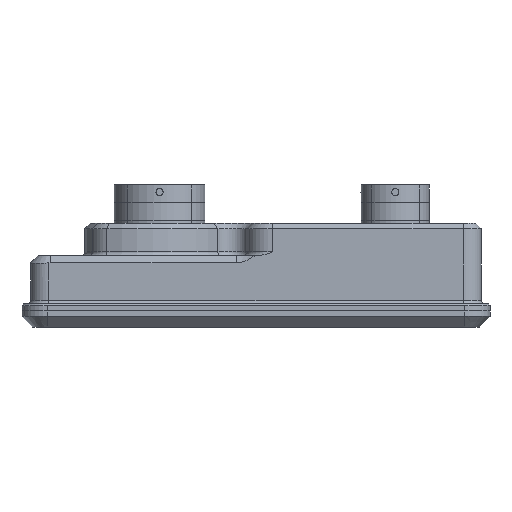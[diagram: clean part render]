
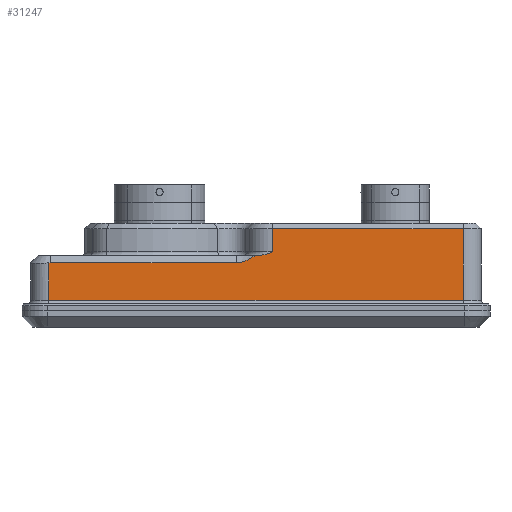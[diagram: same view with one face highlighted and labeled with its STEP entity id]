
A CAD part, front view. The second image highlights one B-rep face of the part: STEP entity #31247.
In plain terms, the highlighted planar face has unit normal (0, -1, 0).
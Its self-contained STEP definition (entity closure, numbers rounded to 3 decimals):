
#31153=CARTESIAN_POINT('Axis2P3D Location',(133.5,9.,0.)) ;
#31158=CARTESIAN_POINT('Line Origine',(72.,9.,1.)) ;
#31162=CARTESIAN_POINT('Vertex',(130.,9.,1.)) ;
#31164=CARTESIAN_POINT('Vertex',(14.,9.,1.)) ;
#31167=CARTESIAN_POINT('Line Origine',(130.,9.,11.25)) ;
#31171=CARTESIAN_POINT('Vertex',(130.,9.,21.)) ;
#31174=CARTESIAN_POINT('Line Origine',(72.,9.,21.)) ;
#31178=CARTESIAN_POINT('Vertex',(76.6,9.,21.)) ;
#31181=CARTESIAN_POINT('Line Origine',(76.6,9.,11.25)) ;
#31185=CARTESIAN_POINT('Vertex',(76.6,9.,14.5)) ;
#31189=CARTESIAN_POINT('Control Point',(72.701,9.,13.5)) ;
#31190=CARTESIAN_POINT('Control Point',(73.543,9.,13.5)) ;
#31191=CARTESIAN_POINT('Control Point',(74.361,9.,13.702)) ;
#31192=CARTESIAN_POINT('Control Point',(75.116,9.,13.942)) ;
#31193=CARTESIAN_POINT('Control Point',(75.859,9.,14.222)) ;
#31194=CARTESIAN_POINT('Control Point',(76.6,9.,14.5)) ;
#31195=CARTESIAN_POINT('Vertex',(72.701,9.,13.5)) ;
#31198=CARTESIAN_POINT('Line Origine',(72.,9.,13.5)) ;
#31202=CARTESIAN_POINT('Vertex',(71.792,9.,13.5)) ;
#31206=CARTESIAN_POINT('Control Point',(66.5,9.,11.5)) ;
#31207=CARTESIAN_POINT('Control Point',(67.585,9.,11.5)) ;
#31208=CARTESIAN_POINT('Control Point',(68.67,9.,11.745)) ;
#31209=CARTESIAN_POINT('Control Point',(69.746,9.,12.237)) ;
#31210=CARTESIAN_POINT('Control Point',(70.785,9.,12.834)) ;
#31211=CARTESIAN_POINT('Control Point',(71.791,9.,13.5)) ;
#31212=CARTESIAN_POINT('Vertex',(66.5,9.,11.5)) ;
#31215=CARTESIAN_POINT('Line Origine',(72.,9.,11.5)) ;
#31219=CARTESIAN_POINT('Vertex',(14.5,9.,11.5)) ;
#31223=CARTESIAN_POINT('Control Point',(14.5,9.,11.5)) ;
#31224=CARTESIAN_POINT('Control Point',(14.333,9.,11.5)) ;
#31225=CARTESIAN_POINT('Control Point',(14.166,9.,11.492)) ;
#31226=CARTESIAN_POINT('Control Point',(14.,9.,11.477)) ;
#31227=CARTESIAN_POINT('Vertex',(14.,9.,11.477)) ;
#31230=CARTESIAN_POINT('Line Origine',(14.,9.,11.25)) ;
#31154=DIRECTION('Axis2P3D Direction',(0.,1.,-0.)) ;
#31155=DIRECTION('Axis2P3D XDirection',(-1.,0.,0.)) ;
#31159=DIRECTION('Vector Direction',(-1.,0.,0.)) ;
#31168=DIRECTION('Vector Direction',(0.,0.,1.)) ;
#31175=DIRECTION('Vector Direction',(-1.,0.,0.)) ;
#31182=DIRECTION('Vector Direction',(0.,0.,1.)) ;
#31199=DIRECTION('Vector Direction',(-1.,0.,0.)) ;
#31216=DIRECTION('Vector Direction',(-1.,0.,0.)) ;
#31231=DIRECTION('Vector Direction',(0.,0.,1.)) ;
#31156=AXIS2_PLACEMENT_3D('Plane Axis2P3D',#31153,#31154,#31155) ;
#31236=ORIENTED_EDGE('',*,*,#31166,.F.) ;
#31237=ORIENTED_EDGE('',*,*,#31173,.T.) ;
#31238=ORIENTED_EDGE('',*,*,#31180,.T.) ;
#31239=ORIENTED_EDGE('',*,*,#31187,.T.) ;
#31240=ORIENTED_EDGE('',*,*,#31197,.T.) ;
#31241=ORIENTED_EDGE('',*,*,#31204,.F.) ;
#31242=ORIENTED_EDGE('',*,*,#31214,.F.) ;
#31243=ORIENTED_EDGE('',*,*,#31221,.F.) ;
#31244=ORIENTED_EDGE('',*,*,#31229,.T.) ;
#31245=ORIENTED_EDGE('',*,*,#31234,.F.) ;
#31160=VECTOR('Line Direction',#31159,1.) ;
#31169=VECTOR('Line Direction',#31168,1.) ;
#31176=VECTOR('Line Direction',#31175,1.) ;
#31183=VECTOR('Line Direction',#31182,1.) ;
#31200=VECTOR('Line Direction',#31199,1.) ;
#31217=VECTOR('Line Direction',#31216,1.) ;
#31232=VECTOR('Line Direction',#31231,1.) ;
#31247=ADVANCED_FACE('LFR-618-01 GDI8 DRIVER - UPPER.1\\GDI Installation',(#31246),#31157,.F.) ;
#31188=B_SPLINE_CURVE_WITH_KNOTS('',5,(#31189,#31190,#31191,#31192,#31193,#31194),.UNSPECIFIED.,.F.,.U.,(6,6),(0.,5.954),.UNSPECIFIED.) ;
#31205=B_SPLINE_CURVE_WITH_KNOTS('',5,(#31206,#31207,#31208,#31209,#31210,#31211),.UNSPECIFIED.,.F.,.U.,(6,6),(0.,8.332),.UNSPECIFIED.) ;
#31222=B_SPLINE_CURVE_WITH_KNOTS('',3,(#31223,#31224,#31225,#31226),.UNSPECIFIED.,.F.,.U.,(4,4),(0.,0.647),.UNSPECIFIED.) ;
#31166=EDGE_CURVE('',#31163,#31165,#31161,.T.) ;
#31173=EDGE_CURVE('',#31163,#31172,#31170,.T.) ;
#31180=EDGE_CURVE('',#31172,#31179,#31177,.T.) ;
#31187=EDGE_CURVE('',#31179,#31186,#31184,.F.) ;
#31197=EDGE_CURVE('',#31186,#31196,#31188,.F.) ;
#31204=EDGE_CURVE('',#31203,#31196,#31201,.F.) ;
#31214=EDGE_CURVE('',#31213,#31203,#31205,.T.) ;
#31221=EDGE_CURVE('',#31220,#31213,#31218,.F.) ;
#31229=EDGE_CURVE('',#31220,#31228,#31222,.T.) ;
#31234=EDGE_CURVE('',#31165,#31228,#31233,.T.) ;
#31235=EDGE_LOOP('',(#31236,#31237,#31238,#31239,#31240,#31241,#31242,#31243,#31244,#31245)) ;
#31246=FACE_OUTER_BOUND('',#31235,.T.) ;
#31161=LINE('Line',#31158,#31160) ;
#31170=LINE('Line',#31167,#31169) ;
#31177=LINE('Line',#31174,#31176) ;
#31184=LINE('Line',#31181,#31183) ;
#31201=LINE('Line',#31198,#31200) ;
#31218=LINE('Line',#31215,#31217) ;
#31233=LINE('Line',#31230,#31232) ;
#31157=PLANE('Plane',#31156) ;
#31163=VERTEX_POINT('',#31162) ;
#31165=VERTEX_POINT('',#31164) ;
#31172=VERTEX_POINT('',#31171) ;
#31179=VERTEX_POINT('',#31178) ;
#31186=VERTEX_POINT('',#31185) ;
#31196=VERTEX_POINT('',#31195) ;
#31203=VERTEX_POINT('',#31202) ;
#31213=VERTEX_POINT('',#31212) ;
#31220=VERTEX_POINT('',#31219) ;
#31228=VERTEX_POINT('',#31227) ;
